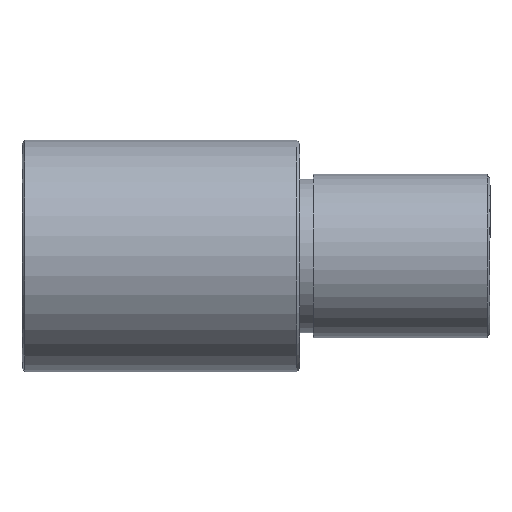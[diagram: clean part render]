
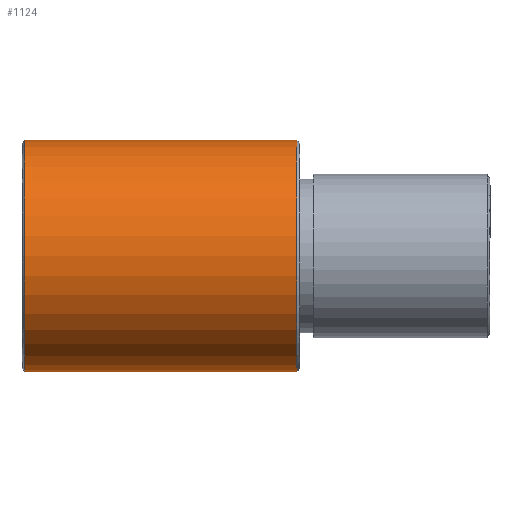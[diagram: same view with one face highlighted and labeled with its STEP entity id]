
A CAD part, top view. The second image highlights one B-rep face of the part: STEP entity #1124.
In plain terms, the highlighted cylindrical face has radius 8.5 mm (diameter 17 mm), a partial arc.
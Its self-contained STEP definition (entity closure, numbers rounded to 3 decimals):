
#12 = VERTEX_POINT ( 'NONE', #2262 ) ;
#63 = EDGE_CURVE ( 'NONE', #209, #315, #316, .T. ) ;
#74 = DIRECTION ( 'NONE',  ( -1., 0., 0. ) ) ;
#92 = VERTEX_POINT ( 'NONE', #2094 ) ;
#94 = DIRECTION ( 'NONE',  ( -1., 0., 0. ) ) ;
#132 = CARTESIAN_POINT ( 'NONE',  ( -19.361, -8.5, 0. ) ) ;
#137 = DIRECTION ( 'NONE',  ( 0., -1., 0. ) ) ;
#200 = EDGE_CURVE ( 'NONE', #315, #92, #264, .T. ) ;
#209 = VERTEX_POINT ( 'NONE', #132 ) ;
#264 = LINE ( 'NONE', #958, #570 ) ;
#315 = VERTEX_POINT ( 'NONE', #340 ) ;
#316 = CIRCLE ( 'NONE', #796, 8.5 ) ;
#328 = CIRCLE ( 'NONE', #1286, 8.5 ) ;
#340 = CARTESIAN_POINT ( 'NONE',  ( -19.361, 8.5, 0. ) ) ;
#408 = LINE ( 'NONE', #1631, #731 ) ;
#570 = VECTOR ( 'NONE', #94, 1000. ) ;
#675 = DIRECTION ( 'NONE',  ( -1., 0., 0. ) ) ;
#731 = VECTOR ( 'NONE', #74, 1000. ) ;
#740 = ORIENTED_EDGE ( 'NONE', *, *, #63, .T. ) ;
#796 = AXIS2_PLACEMENT_3D ( 'NONE', #832, #675, #2074 ) ;
#832 = CARTESIAN_POINT ( 'NONE',  ( -19.361, 0., 0. ) ) ;
#958 = CARTESIAN_POINT ( 'NONE',  ( -38.661, 8.5, 0. ) ) ;
#1056 = CARTESIAN_POINT ( 'NONE',  ( -39.361, 0., 0. ) ) ;
#1091 = ORIENTED_EDGE ( 'NONE', *, *, #1258, .F. ) ;
#1124 = ADVANCED_FACE ( 'NONE', ( #1341 ), #1891, .T. ) ;
#1255 = DIRECTION ( 'NONE',  ( -1., 0., 0. ) ) ;
#1258 = EDGE_CURVE ( 'NONE', #12, #92, #328, .T. ) ;
#1272 = EDGE_CURVE ( 'NONE', #209, #12, #408, .T. ) ;
#1286 = AXIS2_PLACEMENT_3D ( 'NONE', #1056, #1255, #1428 ) ;
#1341 = FACE_OUTER_BOUND ( 'NONE', #1441, .T. ) ;
#1428 = DIRECTION ( 'NONE',  ( 0., -1., 0. ) ) ;
#1441 = EDGE_LOOP ( 'NONE', ( #740, #1900, #1091, #1776 ) ) ;
#1491 = AXIS2_PLACEMENT_3D ( 'NONE', #1737, #1539, #137 ) ;
#1539 = DIRECTION ( 'NONE',  ( -1., 0., 0. ) ) ;
#1631 = CARTESIAN_POINT ( 'NONE',  ( -38.661, -8.5, 0. ) ) ;
#1737 = CARTESIAN_POINT ( 'NONE',  ( -38.661, 0., 0. ) ) ;
#1776 = ORIENTED_EDGE ( 'NONE', *, *, #1272, .F. ) ;
#1891 = CYLINDRICAL_SURFACE ( 'NONE', #1491, 8.5 ) ;
#1900 = ORIENTED_EDGE ( 'NONE', *, *, #200, .T. ) ;
#2074 = DIRECTION ( 'NONE',  ( 0., -1., 0. ) ) ;
#2094 = CARTESIAN_POINT ( 'NONE',  ( -39.361, 8.5, 0. ) ) ;
#2262 = CARTESIAN_POINT ( 'NONE',  ( -39.361, -8.5, 0. ) ) ;
